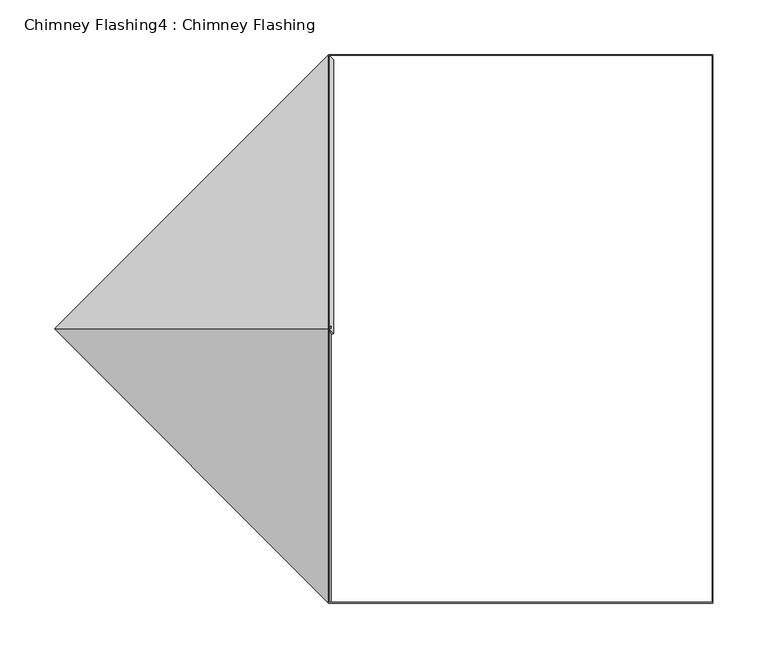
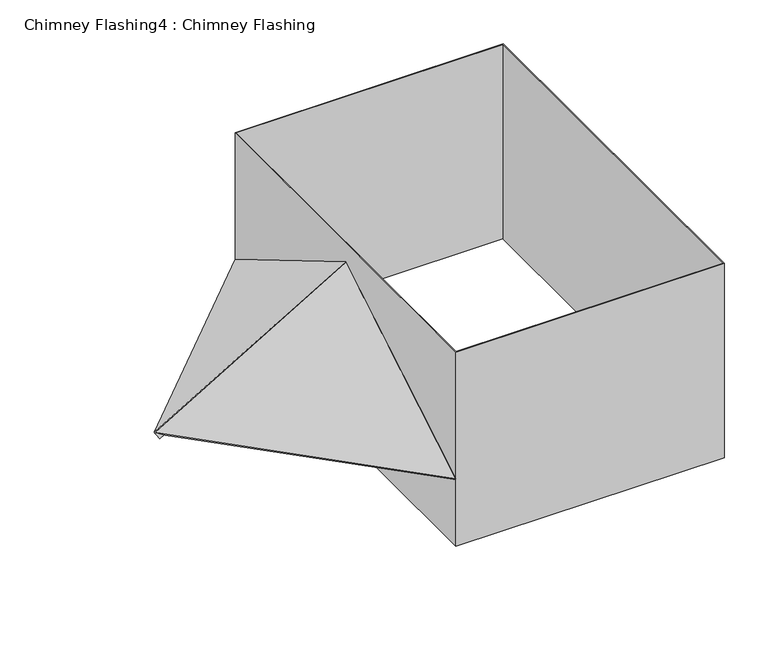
"""IFC4 building model written with IfcOpenShell, lengths in millimetres: proxy geometry, Chimney Flashing4 : Chimney Flashing."""

from ifc_helpers import new_model, si_unit, frame, origin, place, context, project, spatial, polyline, outline, extrude, source, transform, mapped, element, save


def chimney_flashing4_chimney_flashing_829a81cc(model_context):
    return source(origin(), model_context, "Body", "SweptSolid", [
        extrude(outline(polyline([(0.0, 0.0), (-177.4838021, -231.688649), (-354.9676042, 0.0), (0.0, 0.0)])), frame((-12303.6704001, -23176.6422457, 3591.399561), z_axis=(-0.4545194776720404, 0.454519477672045, 0.7660444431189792), x_axis=(0.7071067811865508, 0.7071067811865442, 0.0)), (0.0, 0.0, 1.0), 10.0),
        extrude(outline(polyline([(0.0, 0.0), (-177.4838021, -231.688649), (-354.9676042, 0.0), (0.0, 0.0)])), frame((-12556.9429975, -23420.8244536, 3595.2297832), z_axis=(-0.4545194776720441, -0.4545194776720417, 0.7660444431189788), x_axis=(-0.7071067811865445, 0.7071067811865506, 0.0)), (0.0, 0.0, 1.0), 5.0),
        extrude(outline(polyline([(-12308.2155949, -23172.097051), (-11956.2155949, -23172.097051), (-11956.2155949, -23674.097051), (-12308.2155949, -23674.097051), (-12308.2155949, -23172.097051)]), holes=[polyline([(-12307.2155949, -23673.097051), (-11957.2155949, -23673.097051), (-11957.2155949, -23173.097051), (-12307.2155949, -23173.097051), (-12307.2155949, -23673.097051)])]), frame((0.0, 0.0, 3505.1646635), z_axis=(0.0, 0.0, 1.0), x_axis=(1.0, 0.0, 0.0)), (0.0, 0.0, 1.0), 269.6718079),
    ])


if __name__ == "__main__":
    model = new_model("IFC4")
    model_context = context("Model", 3, world=origin())
    ifc_project = project(units=[si_unit("LENGTHUNIT", "METRE", prefix="MILLI")], contexts=[model_context])
    site = spatial("IfcSite", under=ifc_project)
    building = spatial("IfcBuilding", under=site)
    placement = place(None, origin())
    chimney_flashing4_chimney_flashing_shape = chimney_flashing4_chimney_flashing_829a81cc(model_context)
    element("IfcBuildingElementProxy", 1, Name="Chimney Flashing4 : Chimney Flashing", ObjectType="Chimney Flashing4 : Chimney Flashing", at=placement, inside=building, context=model_context, shape_type="MappedRepresentation", body=[
        mapped(chimney_flashing4_chimney_flashing_shape, transform((0.0, 0.0, 0.0), x_axis=(1.0, 0.0, 0.0), y_axis=(0.0, 1.0, 0.0), z_axis=(0.0, 0.0, 1.0))),
    ])
    save(model, "model.ifc")
